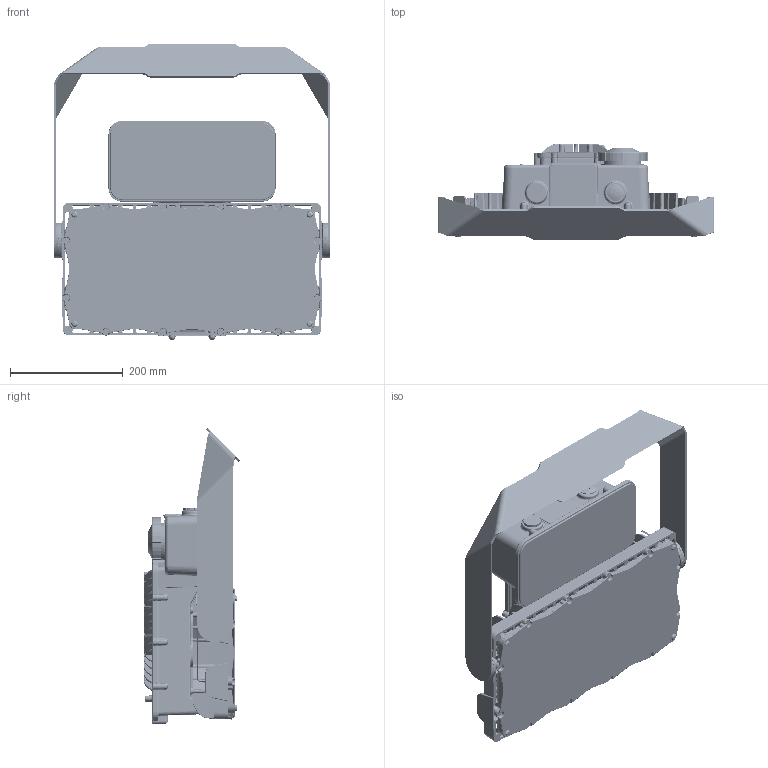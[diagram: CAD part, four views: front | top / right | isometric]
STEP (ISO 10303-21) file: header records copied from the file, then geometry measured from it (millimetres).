
FILE_DESCRIPTION((''),'2;1');
FILE_NAME('F1X_47_XXXXSENXXN_SW','2021-03-22T16:46:34',('gatsonnb'),(''),'CREO PARAMETRIC BY PTC INC, 2019080','CREO PARAMETRIC BY PTC INC, 2019080','');
FILE_SCHEMA(('CONFIG_CONTROL_DESIGN'));
Products named in the file (1): F1X_47_XXXXSENXXN_SW
Bounding box: 490.58 x 170.51 x 525.26 mm (x, y, z)
Volume: 8449305.7 mm3; surface area: 1350728.8 mm2
Topology: 2 solids, 30 shells, 13274 faces, 30567 edges, 17303 vertices
Faces by surface type: bspline 5794, cylinder 3206, plane 1840, torus 956, cone 948, sphere 530
Entity records: 698688 total; most frequent: CARTESIAN_POINT 445645, ORIENTED_EDGE 61118, DIRECTION 41544, EDGE_CURVE 30559, VERTEX_POINT 17303, AXIS2_PLACEMENT_3D 17148, B_SPLINE_CURVE_WITH_KNOTS 13643, EDGE_LOOP 13348
